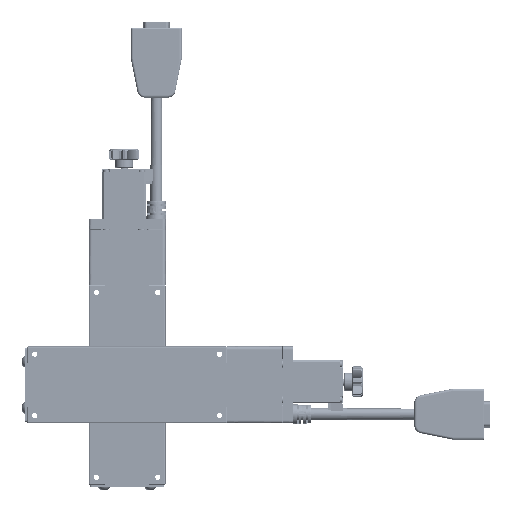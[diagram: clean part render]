
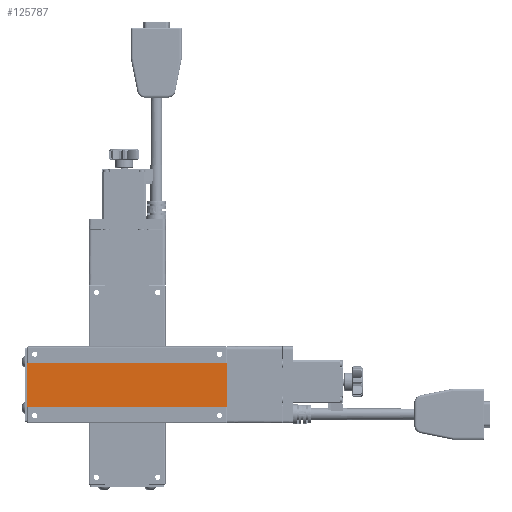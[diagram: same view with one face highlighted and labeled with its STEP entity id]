
A CAD part, front view. The second image highlights one B-rep face of the part: STEP entity #125787.
In plain terms, the highlighted planar face has unit normal (0, -1, 0).
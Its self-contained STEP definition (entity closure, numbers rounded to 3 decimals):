
#14014 = CARTESIAN_POINT ( 'NONE',  ( 14.3, 0.8, 0.2 ) ) ;
#19109 = VERTEX_POINT ( 'NONE', #124213 ) ;
#19318 = EDGE_CURVE ( 'NONE', #90464, #22552, #71189, .T. ) ;
#22552 = VERTEX_POINT ( 'NONE', #120348 ) ;
#24725 = CARTESIAN_POINT ( 'NONE',  ( -4.767, 0.8, 129.8 ) ) ;
#26188 = PLANE ( 'NONE',  #110260 ) ;
#31510 = CARTESIAN_POINT ( 'NONE',  ( 14.3, 0.8, 43.4 ) ) ;
#38171 = CARTESIAN_POINT ( 'NONE',  ( -4.767, 0.8, 0.2 ) ) ;
#42260 = CARTESIAN_POINT ( 'NONE',  ( -14.3, 0.8, 129.8 ) ) ;
#47851 = CARTESIAN_POINT ( 'NONE',  ( 4.767, 0.8, 0.2 ) ) ;
#50676 = CARTESIAN_POINT ( 'NONE',  ( -14.3, 0.8, 86.6 ) ) ;
#52030 = EDGE_CURVE ( 'NONE', #66272, #90464, #53432, .T. ) ;
#52473 = EDGE_LOOP ( 'NONE', ( #75331, #119297, #83395, #76115 ) ) ;
#53172 = B_SPLINE_CURVE_WITH_KNOTS ( 'NONE', 3,
 ( #42260, #50676, #79074, #110675 ),
 .UNSPECIFIED., .F., .F.,
 ( 4, 4 ),
 ( 0., 1. ),
 .UNSPECIFIED. ) ;
#53432 = B_SPLINE_CURVE_WITH_KNOTS ( 'NONE', 3,
 ( #14014, #31510, #70828, #110848 ),
 .UNSPECIFIED., .F., .F.,
 ( 4, 4 ),
 ( 0., 1. ),
 .UNSPECIFIED. ) ;
#63586 = DIRECTION ( 'NONE',  ( 1., 0., 0. ) ) ;
#66272 = VERTEX_POINT ( 'NONE', #69877 ) ;
#68160 = EDGE_CURVE ( 'NONE', #22552, #19109, #53172, .T. ) ;
#69750 = CARTESIAN_POINT ( 'NONE',  ( 14.3, 0.8, 0.2 ) ) ;
#69877 = CARTESIAN_POINT ( 'NONE',  ( 14.3, 0.8, 0.2 ) ) ;
#70828 = CARTESIAN_POINT ( 'NONE',  ( 14.3, 0.8, 86.6 ) ) ;
#71189 = B_SPLINE_CURVE_WITH_KNOTS ( 'NONE', 3,
 ( #72469, #120269, #24725, #93082 ),
 .UNSPECIFIED., .F., .F.,
 ( 4, 4 ),
 ( 0., 1. ),
 .UNSPECIFIED. ) ;
#72469 = CARTESIAN_POINT ( 'NONE',  ( 14.3, 0.8, 129.8 ) ) ;
#74520 = DIRECTION ( 'NONE',  ( 0., 1., 0. ) ) ;
#75331 = ORIENTED_EDGE ( 'NONE', *, *, #86693, .T. ) ;
#76115 = ORIENTED_EDGE ( 'NONE', *, *, #68160, .T. ) ;
#79074 = CARTESIAN_POINT ( 'NONE',  ( -14.3, 0.8, 43.4 ) ) ;
#83395 = ORIENTED_EDGE ( 'NONE', *, *, #19318, .T. ) ;
#86577 = CARTESIAN_POINT ( 'NONE',  ( 14.3, 0.8, 129.8 ) ) ;
#86693 = EDGE_CURVE ( 'NONE', #19109, #66272, #113253, .T. ) ;
#90464 = VERTEX_POINT ( 'NONE', #86577 ) ;
#93082 = CARTESIAN_POINT ( 'NONE',  ( -14.3, 0.8, 129.8 ) ) ;
#104251 = CARTESIAN_POINT ( 'NONE',  ( -14.3, 0.8, 129.8 ) ) ;
#109142 = CARTESIAN_POINT ( 'NONE',  ( -14.3, 0.8, 0.2 ) ) ;
#110260 = AXIS2_PLACEMENT_3D ( 'NONE', #104251, #74520, #63586 ) ;
#110675 = CARTESIAN_POINT ( 'NONE',  ( -14.3, 0.8, 0.2 ) ) ;
#110848 = CARTESIAN_POINT ( 'NONE',  ( 14.3, 0.8, 129.8 ) ) ;
#113253 = B_SPLINE_CURVE_WITH_KNOTS ( 'NONE', 3,
 ( #109142, #38171, #47851, #69750 ),
 .UNSPECIFIED., .F., .F.,
 ( 4, 4 ),
 ( 0., 1. ),
 .UNSPECIFIED. ) ;
#113277 = FACE_OUTER_BOUND ( 'NONE', #52473, .T. ) ;
#119297 = ORIENTED_EDGE ( 'NONE', *, *, #52030, .T. ) ;
#120269 = CARTESIAN_POINT ( 'NONE',  ( 4.767, 0.8, 129.8 ) ) ;
#120348 = CARTESIAN_POINT ( 'NONE',  ( -14.3, 0.8, 129.8 ) ) ;
#124213 = CARTESIAN_POINT ( 'NONE',  ( -14.3, 0.8, 0.2 ) ) ;
#125787 = ADVANCED_FACE ( 'NONE', ( #113277 ), #26188, .F. ) ;
